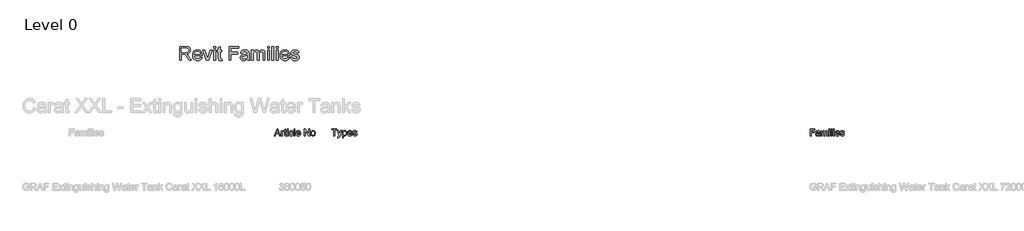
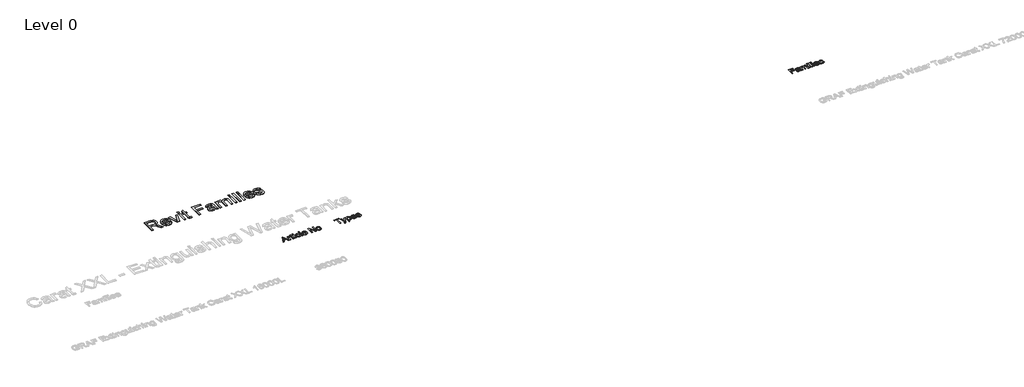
# One storey, part 36 of 37: 4 proxies.
"""IFC4 building model written with IfcOpenShell, lengths in millimetres."""

from ifc_helpers import new_model, si_unit, origin, origin_with_axes, place, context, project, spatial, polyline, outline, extrude, element, save

model = new_model("IFC4")

# Units and contexts
model_context = context("Model", 3, world=origin())
ifc_project = project(units=[si_unit("LENGTHUNIT", "METRE", prefix="MILLI")], contexts=[model_context])

# Site, building, storey
site = spatial("IfcSite", under=ifc_project)
building = spatial("IfcBuilding", under=site)
storey = spatial("IfcBuildingStorey", under=building, Name="Level 0", Elevation=0.0)

# Proxies
placement = place(None, origin())
element("IfcBuildingElementProxy", 1, Name="300mm Arial", ObjectType="300mm Arial", at=placement, inside=storey, context=model_context, shape_type="SweptSolid", body=[
    extrude(outline(polyline([(-3961.8157412, 653.8274553), (-3961.8157412, 917.5252695), (-4060.7024215, 917.5252695), (-4060.7024215, 955.1963858), (-3825.2579445, 955.1963858), (-3825.2579445, 917.5252695), (-3924.1446249, 917.5252695), (-3924.1446249, 653.8274553), (-3961.8157412, 653.8274553)])), origin_with_axes(), (0.0, 0.0, 1.0), 10.0),
    extrude(outline(polyline([(-3787.5868282, 569.0674436), (-3792.2957178, 605.3406084), (-3773.165854, 602.0296704), (-3755.2867891, 606.186737), (-3744.3239056, 617.7750198), (-3734.0232097, 645.5133222), (-3731.0801538, 654.6367957), (-3811.1312759, 875.1452636), (-3771.4000205, 875.1452636), (-3728.9464382, 752.2726772), (-3714.157582, 703.1236427), (-3699.3687258, 746.5337181), (-3655.7379212, 875.1452636), (-3616.3009713, 875.1452636), (-3693.3354611, 648.5299546), (-3713.3482416, 599.38092), (-3723.5937552, 583.690753), (-3735.2004321, 572.81984), (-3748.6833073, 566.4738756), (-3764.5574153, 564.3585541), (-3787.5868282, 569.0674436)])), origin_with_axes(), (0.0, 0.0, 1.0), 10.0),
    extrude(outline(polyline([(-3585.1045781, 569.0674436), (-3585.1045781, 875.1452636), (-3547.4334618, 875.1452636), (-3547.4334618, 838.2099113), (-3535.1462032, 856.4292671), (-3521.3874165, 869.4430927), (-3505.3477615, 877.2513881), (-3486.2178978, 879.8541532), (-3460.7420696, 876.2121214), (-3438.4668148, 865.2860262), (-3420.3302325, 847.738055), (-3407.2704216, 824.2303955), (-3399.3793528, 796.473699), (-3396.7489966, 766.1786167), (-3399.7196437, 733.9613509), (-3408.631585, 705.1469937), (-3423.199712, 681.1978758), (-3443.1389162, 663.5763282), (-3466.3614671, 652.7330064), (-3490.7796345, 649.1185658), (-3508.0976795, 651.5373899), (-3523.5579203, 658.7938623), (-3536.7924751, 669.7475487), (-3547.4334618, 683.2580149), (-3547.4334618, 569.0674436), (-3585.1045781, 569.0674436)]), holes=[polyline([(-3547.4334618, 762.7205259), (-3543.3591687, 728.9489587), (-3531.1362894, 705.3309347), (-3513.1008746, 691.4249952), (-3491.5889749, 686.7896821), (-3469.7275874, 691.5905421), (-3451.2323201, 705.9931223), (-3438.6231647, 730.475669), (-3434.4201129, 765.5164291), (-3438.5219971, 799.1040552), (-3450.8276499, 823.0531731), (-3468.8354735, 837.4005709), (-3490.0438705, 842.1830369), (-3511.335041, 837.0970683), (-3530.0326434, 821.8391625), (-3543.0832572, 796.8875662), (-3547.4334618, 762.7205259)])]), origin_with_axes(), (0.0, 0.0, 1.0), 10.0),
    extrude(outline(polyline([(-3199.4170944, 719.7519089), (-3162.481742, 715.0430193), (-3175.7898732, 687.2127464), (-3197.0258614, 666.4090196), (-3225.71146, 653.4411792), (-3261.3684223, 649.1185658), (-3284.7427246, 650.9832677), (-3305.5694441, 656.5773732), (-3323.8485807, 665.9008826), (-3339.5801345, 678.9537956), (-3352.2306766, 695.3728289), (-3361.2667781, 714.794699), (-3366.688439, 737.2194059), (-3368.4956593, 762.6469495), (-3366.6700449, 788.9367166), (-3361.1932017, 812.1086838), (-3352.0651297, 832.162851), (-3339.2858289, 849.0992184), (-3323.5956618, 862.5545023), (-3305.734991, 872.1654195), (-3285.7038163, 877.9319697), (-3263.5021379, 879.8541532), (-3242.0155301, 877.9365683), (-3222.584463, 872.1838136), (-3205.2089365, 862.5958891), (-3189.8889507, 849.1727948), (-3177.3832621, 832.2732156), (-3168.4506274, 812.2558366), (-3163.0910466, 789.1206576), (-3161.3045197, 762.8676787), (-3161.5252489, 752.7141356), (-3330.824543, 752.7141356), (-3324.3038347, 724.5159807), (-3309.1562935, 703.7858303), (-3287.294906, 691.0387191), (-3260.6326584, 686.7896821), (-3240.5830896, 688.7578508), (-3223.697306, 694.6623568), (-3209.9753076, 704.8710822), (-3199.4170944, 719.7519089)]), holes=[polyline([(-3330.824543, 790.3852519), (-3198.975636, 790.3852519), (-3204.0708016, 810.2876679), (-3214.0587978, 824.5247011), (-3236.0213529, 837.7684529), (-3263.6492907, 842.1830369), (-3289.0423454, 838.6605668), (-3310.0392103, 828.0931565), (-3324.6349285, 811.6212401), (-3330.824543, 790.3852519)])]), origin_with_axes(), (0.0, 0.0, 1.0), 10.0),
    extrude(outline(polyline([(-3137.760072, 719.7519089), (-3100.0889557, 724.4607984), (-3094.1476614, 708.347567), (-3082.6513491, 696.5017668), (-3065.5264422, 689.2177033), (-3042.6993644, 686.7896821), (-3020.1481981, 689.0153682), (-3004.2924841, 695.6924264), (-2994.9114932, 705.3677229), (-2991.7844963, 716.5881237), (-2994.9298873, 726.1898438), (-3004.3660605, 733.5106955), (-3043.1408228, 744.2528497), (-3099.8682265, 762.6837377), (-3114.2248213, 771.9451669), (-3124.6266847, 784.2048344), (-3130.945058, 798.6809909), (-3133.0511824, 814.5918872), (-3131.3589252, 829.1876054), (-3126.2821537, 842.6612835), (-3118.2807203, 854.4794926), (-3107.8144776, 864.1088038), (-3083.8653597, 875.2556282), (-3051.4549559, 879.8541532), (-3026.9356209, 878.0055461), (-3005.6168593, 872.4597251), (-2988.4735583, 863.7593159), (-2976.4806053, 852.4469445), (-2968.5343542, 837.6856795), (-2963.531159, 818.6385892), (-3001.2022754, 813.9296996), (-3005.9571501, 825.7846969), (-3015.3657322, 834.7150324), (-3029.5199919, 840.3160357), (-3048.5118999, 842.1830369), (-3070.1433612, 840.3988092), (-3084.5643355, 835.0461262), (-3092.6761335, 827.3206043), (-3095.3800661, 818.41786), (-3090.8919058, 807.4549765), (-3076.8388136, 799.1408434), (-3044.3916216, 791.1210159), (-2989.0989577, 773.3891038), (-2974.4940425, 764.9094238), (-2963.4207944, 753.3027468), (-2956.4402336, 738.5322847), (-2954.11338, 720.5612493), (-2956.8449038, 701.9832085), (-2965.0394752, 684.5088137), (-2978.3843946, 669.5084254), (-2996.5669622, 658.3524039), (-3018.5295173, 651.4270253), (-3043.2143992, 649.1185658), (-3081.1982152, 653.5699379), (-3108.9181235, 666.9240544), (-3127.4225879, 689.0337623), (-3137.760072, 719.7519089)])), origin_with_axes(), (0.0, 0.0, 1.0), 10.0),
])
element("IfcBuildingElementProxy", 2, Name="300mm Arial", ObjectType="300mm Arial", at=placement, inside=storey, context=model_context, shape_type="SweptSolid", body=[
    extrude(outline(polyline([(-6532.2115467, 653.8274553), (-6414.3028928, 949.2120707), (-6382.8605852, 949.2120707), (-6264.9519313, 653.8274553), (-6303.9663544, 653.8274553), (-6337.7884698, 746.1351476), (-6459.4471236, 746.1351476), (-6493.1971236, 653.8274553), (-6532.2115467, 653.8274553)]), holes=[polyline([(-6445.8894313, 783.0582246), (-6351.2740467, 783.0582246), (-6377.8846236, 855.6784169), (-6398.581739, 912.2889938), (-6416.9711621, 862.0245707), (-6445.8894313, 783.0582246)])]), origin_with_axes(), (0.0, 0.0, 1.0), 10.0),
    extrude(outline(polyline([(-6230.1202005, 653.8274553), (-6230.1202005, 870.7505323), (-6197.8125082, 870.7505323), (-6197.8125082, 838.6591861), (-6185.8774121, 857.2649553), (-6174.8798159, 868.2264938), (-6163.8461621, 873.5810611), (-6151.8028928, 875.3659169), (-6133.4134698, 872.5173592), (-6114.7355852, 863.9716861), (-6127.0673159, 830.8707246), (-6140.0480852, 836.5498111), (-6153.0288544, 838.44284), (-6164.0534938, 836.6219265), (-6173.9062582, 831.1591861), (-6181.8659938, 822.4692823), (-6187.2115467, 810.9668784), (-6191.7007294, 790.3418784), (-6193.1971236, 767.8418784), (-6193.1971236, 653.8274553), (-6230.1202005, 653.8274553)])), origin_with_axes(), (0.0, 0.0, 1.0), 10.0),
    extrude(outline(polyline([(-6013.1971236, 684.6207246), (-6008.581739, 652.7457246), (-6036.2019313, 649.2120707), (-6053.9242871, 650.7445226), (-6067.1394313, 655.3418784), (-6076.4783736, 662.427215), (-6082.5721236, 671.4236092), (-6085.925489, 686.8743303), (-6087.0432775, 713.3226476), (-6087.0432775, 833.8274553), (-6114.7355852, 833.8274553), (-6114.7355852, 870.7505323), (-6087.0432775, 870.7505323), (-6087.0432775, 923.4668784), (-6050.1202005, 945.1736092), (-6050.1202005, 870.7505323), (-6013.1971236, 870.7505323), (-6013.1971236, 833.8274553), (-6050.1202005, 833.8274553), (-6050.1202005, 714.4043784), (-6048.1730852, 695.3659169), (-6041.862989, 688.6231284), (-6029.2788544, 686.1351476), (-6013.1971236, 684.6207246)])), origin_with_axes(), (0.0, 0.0, 1.0), 10.0),
    extrude(outline(polyline([(-5976.2740467, 912.2889938), (-5976.2740467, 949.2120707), (-5939.3509698, 949.2120707), (-5939.3509698, 912.2889938), (-5976.2740467, 912.2889938)])), origin_with_axes(), (0.0, 0.0, 1.0), 10.0),
    extrude(outline(polyline([(-5976.2740467, 653.8274553), (-5976.2740467, 870.7505323), (-5939.3509698, 870.7505323), (-5939.3509698, 653.8274553), (-5976.2740467, 653.8274553)])), origin_with_axes(), (0.0, 0.0, 1.0), 10.0),
    extrude(outline(polyline([(-5745.5048159, 732.2889938), (-5708.581739, 727.6736092), (-5718.8762102, 694.8340659), (-5738.2211621, 670.0173592), (-5764.7956813, 654.4133928), (-5796.7788544, 649.2120707), (-5817.4872378, 651.0262234), (-5836.0546957, 656.4686813), (-5852.4812282, 665.5394445), (-5866.7668352, 678.238513), (-5878.3300864, 694.3270046), (-5886.5895515, 713.5660371), (-5891.5452306, 735.9556104), (-5893.1971236, 761.4957246), (-5890.3756092, 794.3532967), (-5881.9110659, 822.8298592), (-5867.6682775, 845.8256525), (-5847.5120275, 862.2409169), (-5823.3984457, 872.0846669), (-5797.2836621, 875.3659169), (-5766.0847438, 870.8587053), (-5741.1418352, 857.3370707), (-5723.2482053, 835.5221669), (-5713.1971236, 806.1351476), (-5750.1202005, 801.519763), (-5756.8179169, 817.6285371), (-5767.2476044, 829.176013), (-5780.83234, 836.1261332), (-5796.9952005, 838.44284), (-5820.8563784, 833.8815419), (-5839.7956813, 820.1976476), (-5852.1544553, 796.6519746), (-5856.2740467, 762.50534), (-5852.2445996, 727.8989698), (-5840.1562582, 704.2721669), (-5821.5595034, 690.6694025), (-5798.0048159, 686.1351476), (-5778.8852246, 688.9656765), (-5763.2091428, 697.457263), (-5751.8058977, 711.8262534), (-5745.5048159, 732.2889938)])), origin_with_axes(), (0.0, 0.0, 1.0), 10.0),
    extrude(outline(polyline([(-5676.2740467, 653.8274553), (-5676.2740467, 949.2120707), (-5639.3509698, 949.2120707), (-5639.3509698, 653.8274553), (-5676.2740467, 653.8274553)])), origin_with_axes(), (0.0, 0.0, 1.0), 10.0),
    extrude(outline(polyline([(-5432.0913544, 718.44284), (-5395.8894313, 713.8274553), (-5408.9333015, 686.5498111), (-5429.7476044, 666.1591861), (-5457.86359, 653.4488496), (-5492.8125082, 649.2120707), (-5515.7226645, 651.039745), (-5536.1358255, 656.5227678), (-5554.0519914, 665.6611392), (-5569.4711621, 678.4548592), (-5581.870501, 694.547858), (-5590.7271717, 713.5840659), (-5596.0411741, 735.563483), (-5597.8125082, 760.4861092), (-5596.0231453, 786.2538375), (-5590.6550563, 808.9656765), (-5581.7082414, 828.621626), (-5569.1827005, 845.2216861), (-5553.8040948, 858.4097871), (-5536.2980852, 867.8298592), (-5516.6646717, 873.4819025), (-5494.9038544, 875.3659169), (-5473.8439085, 873.4864097), (-5454.7986861, 867.847888), (-5437.7681873, 858.450352), (-5422.7524121, 845.2938015), (-5410.4950503, 828.7297991), (-5401.7397919, 809.1099073), (-5396.4866368, 786.434126), (-5394.7355852, 760.7024553), (-5394.9519313, 750.7505323), (-5560.8894313, 750.7505323), (-5554.4982053, 723.1123111), (-5539.6514505, 702.7938015), (-5518.2241669, 690.2998111), (-5492.0913544, 686.1351476), (-5472.4399121, 688.0642342), (-5455.8894313, 693.8514938), (-5442.4399121, 703.8575034), (-5432.0913544, 718.44284)]), holes=[polyline([(-5560.8894313, 787.6736092), (-5431.6586621, 787.6736092), (-5436.6526525, 807.1808207), (-5446.4423159, 821.1351476), (-5467.9687582, 834.1159169), (-5495.0480852, 838.44284), (-5519.9369073, 834.9903159), (-5540.5168352, 824.6327438), (-5554.8227246, 808.4879121), (-5560.8894313, 787.6736092)])]), origin_with_axes(), (0.0, 0.0, 1.0), 10.0),
    extrude(outline(polyline([(-5237.8125082, 653.8274553), (-5237.8125082, 949.2120707), (-5198.2932775, 949.2120707), (-5043.9663544, 715.1976476), (-5043.9663544, 949.2120707), (-5007.0432775, 949.2120707), (-5007.0432775, 653.8274553), (-5046.5625082, 653.8274553), (-5200.8894313, 887.9139938), (-5200.8894313, 653.8274553), (-5237.8125082, 653.8274553)])), origin_with_axes(), (0.0, 0.0, 1.0), 10.0),
    extrude(outline(polyline([(-4956.2740467, 762.2889938), (-4954.277352, 790.3824433), (-4948.2872678, 814.5906765), (-4938.3037943, 834.9136933), (-4924.3269313, 851.3514938), (-4910.2554169, 861.8578039), (-4894.7235659, 869.3623111), (-4877.7313784, 873.8650154), (-4859.2788544, 875.3659169), (-4838.9085118, 873.5382426), (-4820.4897919, 868.0552198), (-4804.0226945, 858.9168484), (-4789.5072198, 846.1231284), (-4777.6600142, 830.1067522), (-4769.1977246, 811.3004121), (-4764.1203508, 789.704108), (-4762.4278928, 765.31784), (-4765.4206813, 728.0161573), (-4774.3990467, 699.6207246), (-4789.1015707, 678.3557005), (-4809.2668352, 662.4452438), (-4833.2181573, 652.520364), (-4859.2788544, 649.2120707), (-4879.9466729, 651.0329842), (-4898.5366669, 656.4957246), (-4915.0488364, 665.6002919), (-4929.4831813, 678.3466861), (-4941.2041849, 694.5185611), (-4949.5763303, 713.8995707), (-4954.5996176, 736.489715), (-4956.2740467, 762.2889938)]), holes=[polyline([(-4919.3509698, 762.3611092), (-4915.0781332, 728.9446428), (-4902.2596236, 705.1375515), (-4882.9687582, 690.8857486), (-4859.2788544, 686.1351476), (-4835.6971236, 690.9127919), (-4816.4423159, 705.2457246), (-4803.6238063, 729.3683207), (-4799.3509698, 763.5149553), (-4803.6508496, 795.957864), (-4816.550489, 819.4404361), (-4835.83234, 833.692239), (-4859.2788544, 838.44284), (-4882.9687582, 833.7102678), (-4902.2596236, 819.5125515), (-4915.0781332, 795.7595467), (-4919.3509698, 762.3611092)])]), origin_with_axes(), (0.0, 0.0, 1.0), 10.0),
])
element("IfcBuildingElementProxy", 3, Name="300mm Arial", ObjectType="300mm Arial", at=placement, inside=storey, context=model_context, shape_type="SweptSolid", body=[
    extrude(outline(polyline([(16617.0847407, 653.8274553), (16617.0847407, 949.2120707), (16815.5462791, 949.2120707), (16815.5462791, 912.2889938), (16654.0078176, 912.2889938), (16654.0078176, 824.5966861), (16792.469356, 824.5966861), (16792.469356, 787.6736092), (16654.0078176, 787.6736092), (16654.0078176, 653.8274553), (16617.0847407, 653.8274553)])), origin_with_axes(), (0.0, 0.0, 1.0), 10.0),
    extrude(outline(polyline([(17000.1616637, 681.519763), (16982.5204378, 666.3935611), (16964.3563753, 656.4957246), (16945.2548128, 651.0329842), (16924.8010868, 649.2120707), (16893.9447166, 653.5930803), (16871.1832983, 666.7361092), (16857.1478416, 686.6940419), (16852.469356, 711.519763), (16854.236183, 726.8262534), (16859.5366637, 740.7264938), (16867.7127455, 752.6255323), (16878.1063753, 761.9284169), (16903.9597407, 774.0438015), (16935.906856, 779.5966861), (16973.6592599, 785.4380323), (16999.9453176, 792.2889938), (17000.1616637, 800.5101476), (16997.6195964, 816.988513), (16989.9933945, 827.769763), (16972.938106, 835.7745707), (16949.1760868, 838.44284), (16927.1808945, 836.6669986), (16911.8203176, 831.3394746), (16901.345558, 821.4867101), (16894.0078176, 806.1351476), (16857.0847407, 810.7505323), (16863.4939955, 830.94284), (16873.0582983, 846.8082246), (16886.6700772, 858.941638), (16905.2217599, 867.9380323), (16927.9110628, 873.5089457), (16953.9357022, 875.3659169), (16978.8966397, 873.7252919), (16998.6832983, 868.8034169), (17013.6021685, 861.4025755), (17023.9597407, 852.3250515), (17030.828731, 841.1020948), (17035.281856, 827.2649553), (17037.0847407, 794.957263), (17037.0847407, 749.019763), (17038.9597407, 684.8731284), (17046.3155099, 653.8274553), (17009.392433, 653.8274553), (17000.1616637, 681.519763)]), holes=[polyline([(17000.1616637, 755.3659169), (16940.594356, 744.0438015), (16908.8275291, 738.0582246), (16894.4405099, 728.3226476), (16889.392433, 714.1159169), (16892.141832, 703.1363496), (16900.3900291, 694.1399553), (16913.9567358, 688.1363496), (16932.6616637, 686.1351476), (16952.4933945, 688.3436813), (16970.017433, 694.9692823), (16984.2241637, 704.7319025), (16994.1039714, 716.3514938), (16998.484981, 728.3226476), (16999.9453176, 744.9091861), (17000.1616637, 755.3659169)])]), origin_with_axes(), (0.0, 0.0, 1.0), 10.0),
    extrude(outline(polyline([(17087.8539714, 653.8274553), (17087.8539714, 870.7505323), (17124.7770483, 870.7505323), (17124.7770483, 835.0534169), (17135.8828176, 851.4506525), (17150.1616637, 864.2962053), (17167.126808, 872.598489), (17186.2914714, 875.3659169), (17206.8263272, 872.5444025), (17223.2866637, 864.0798592), (17235.5823368, 850.5311813), (17243.6232022, 832.457263), (17257.0817358, 851.2297991), (17272.4332983, 864.6387534), (17289.6778897, 872.684126), (17308.8155099, 875.3659169), (17336.5709185, 870.9037775), (17357.0967599, 857.5173592), (17369.7800532, 834.8460851), (17374.0078176, 802.5293784), (17374.0078176, 653.8274553), (17337.0847407, 653.8274553), (17337.0847407, 786.6639938), (17333.6592599, 817.4933207), (17328.845558, 825.9939217), (17321.2554137, 832.6736092), (17311.4927935, 837.0005323), (17300.1616637, 838.44284), (17280.1586589, 834.7469265), (17263.8515676, 823.6591861), (17253.0072166, 804.4224073), (17249.392433, 776.2793784), (17249.392433, 653.8274553), (17212.469356, 653.8274553), (17212.469356, 790.7745707), (17210.3329378, 811.6519746), (17203.923683, 826.5438015), (17192.6466397, 835.4680803), (17175.906856, 838.44284), (17161.6820964, 836.4596669), (17148.5751253, 830.5101476), (17137.7578176, 820.738513), (17130.4020483, 807.2889938), (17126.1832983, 788.629138), (17124.7770483, 763.2264938), (17124.7770483, 653.8274553), (17087.8539714, 653.8274553)])), origin_with_axes(), (0.0, 0.0, 1.0), 10.0),
    extrude(outline(polyline([(17429.392433, 912.2889938), (17429.392433, 949.2120707), (17466.3155099, 949.2120707), (17466.3155099, 912.2889938), (17429.392433, 912.2889938)])), origin_with_axes(), (0.0, 0.0, 1.0), 10.0),
    extrude(outline(polyline([(17429.392433, 653.8274553), (17429.392433, 870.7505323), (17466.3155099, 870.7505323), (17466.3155099, 653.8274553), (17429.392433, 653.8274553)])), origin_with_axes(), (0.0, 0.0, 1.0), 10.0),
    extrude(outline(polyline([(17521.7001253, 653.8274553), (17521.7001253, 949.2120707), (17558.6232022, 949.2120707), (17558.6232022, 653.8274553), (17521.7001253, 653.8274553)])), origin_with_axes(), (0.0, 0.0, 1.0), 10.0),
    extrude(outline(polyline([(17614.0078176, 912.2889938), (17614.0078176, 949.2120707), (17650.9308945, 949.2120707), (17650.9308945, 912.2889938), (17614.0078176, 912.2889938)])), origin_with_axes(), (0.0, 0.0, 1.0), 10.0),
    extrude(outline(polyline([(17614.0078176, 653.8274553), (17614.0078176, 870.7505323), (17650.9308945, 870.7505323), (17650.9308945, 653.8274553), (17614.0078176, 653.8274553)])), origin_with_axes(), (0.0, 0.0, 1.0), 10.0),
    extrude(outline(polyline([(17858.1905099, 718.44284), (17894.392433, 713.8274553), (17881.3485628, 686.5498111), (17860.5342599, 666.1591861), (17832.4182743, 653.4488496), (17797.469356, 649.2120707), (17774.5591998, 651.039745), (17754.1460387, 656.5227678), (17736.2298729, 665.6611392), (17720.8107022, 678.4548592), (17708.4113633, 694.547858), (17699.5546926, 713.5840659), (17694.2406902, 735.563483), (17692.469356, 760.4861092), (17694.258719, 786.2538375), (17699.626808, 808.9656765), (17708.5736229, 828.621626), (17721.0991637, 845.2216861), (17736.4777695, 858.4097871), (17753.9837791, 867.8298592), (17773.6171926, 873.4819025), (17795.3780099, 875.3659169), (17816.4379558, 873.4864097), (17835.4831782, 867.847888), (17852.513677, 858.450352), (17867.5294522, 845.2938015), (17879.786814, 828.7297991), (17888.5420724, 809.1099073), (17893.7952274, 786.434126), (17895.5462791, 760.7024553), (17895.329933, 750.7505323), (17729.392433, 750.7505323), (17735.7836589, 723.1123111), (17750.6304137, 702.7938015), (17772.0576974, 690.2998111), (17798.1905099, 686.1351476), (17817.8419522, 688.0642342), (17834.392433, 693.8514938), (17847.8419522, 703.8575034), (17858.1905099, 718.44284)]), holes=[polyline([(17729.392433, 787.6736092), (17858.6232022, 787.6736092), (17853.6292118, 807.1808207), (17843.8395483, 821.1351476), (17822.313106, 834.1159169), (17795.2337791, 838.44284), (17770.344957, 834.9903159), (17749.7650291, 824.6327438), (17735.4591397, 808.4879121), (17729.392433, 787.6736092)])]), origin_with_axes(), (0.0, 0.0, 1.0), 10.0),
    extrude(outline(polyline([(17918.6232022, 718.44284), (17955.5462791, 723.0582246), (17961.3695964, 707.2649553), (17972.6376253, 695.6543784), (17989.422481, 688.5149553), (18011.7962791, 686.1351476), (18033.8996445, 688.316638), (18049.4405099, 694.8611092), (18058.6352214, 704.3442823), (18061.7001253, 715.3418784), (18058.6171926, 724.7529361), (18049.3683945, 731.9284169), (18011.3635868, 742.457263), (17955.7626253, 760.5221669), (17941.6911108, 769.5996909), (17931.4957983, 781.6159169), (17925.3028897, 795.8046188), (17923.2385868, 811.3995707), (17924.8972407, 825.7054601), (17929.8732022, 838.91159), (17937.7157503, 850.4951236), (17947.9741637, 859.9332246), (17971.4477214, 870.8587053), (18003.2145483, 875.3659169), (18027.2470003, 873.5540178), (18048.142433, 868.1183207), (18064.9453176, 859.5906765), (18076.7001253, 848.5029361), (18084.4885868, 834.0347871), (18089.392433, 815.3659169), (18052.469356, 810.7505323), (18047.8088993, 822.3701236), (18038.5871445, 831.1231284), (18024.7139474, 836.6129121), (18006.0991637, 838.44284), (17984.8972407, 836.6940419), (17970.7626253, 831.4476476), (17962.8119041, 823.8755323), (17960.1616637, 815.1495707), (17964.5607022, 804.4043784), (17978.3347407, 796.25534), (18010.1376253, 788.394763), (18064.3323368, 771.0149553), (18078.6472407, 762.7036573), (18089.500606, 751.3274553), (18096.3425532, 736.8502919), (18098.6232022, 719.2361092), (18095.9459185, 701.0269746), (18087.9140676, 683.8995707), (18074.8341397, 669.1970467), (18057.0126253, 658.2625515), (18035.486183, 651.4746909), (18011.2914714, 649.2120707), (17974.0619041, 653.5750515), (17946.892433, 666.6639938), (17928.7554137, 688.3346669), (17918.6232022, 718.44284)])), origin_with_axes(), (0.0, 0.0, 1.0), 10.0),
])
element("IfcBuildingElementProxy", 4, Name="600mm Arial", ObjectType="600mm Arial", at=placement, inside=storey, context=model_context, shape_type="SweptSolid", body=[
    extrude(outline(polyline([(-10626.1144326, 3919.3449091), (-10626.1144326, 4522.08277), (-10366.389744, 4522.08277), (-10296.5841354, 4518.017674), (-10245.798026, 4505.8223859), (-10226.1991127, 4496.1286953), (-10208.6787327, 4483.3080077), (-10193.2368859, 4467.3603233), (-10179.8735725, 4448.2856418), (-10169.0900315, 4427.1094345), (-10161.3875022, 4404.8571723), (-10156.7659846, 4381.5288553), (-10155.2254788, 4357.1244834), (-10157.7776601, 4326.1672135), (-10165.4342042, 4297.7483294), (-10178.1951109, 4271.867831), (-10196.0603802, 4248.5257184), (-10219.2599386, 4228.4669526), (-10248.0237121, 4212.4364947), (-10282.3517007, 4200.4343446), (-10322.2439046, 4192.4605024), (-10297.4118699, 4176.2369064), (-10279.4224404, 4160.2340396), (-10248.557141, 4123.6297811), (-10218.3540292, 4082.684515), (-10117.8486681, 3919.3449091), (-10205.4045829, 3919.3449091), (-10283.8370243, 4044.2776347), (-10340.4908516, 4126.9775072), (-10361.5520958, 4151.092172), (-10380.2956834, 4166.0465751), (-10416.1273898, 4180.3939729), (-10459.8317708, 4183.0427233), (-10550.7722, 4183.0427233), (-10550.7722, 3919.3449091), (-10626.1144326, 3919.3449091)]), holes=[polyline([(-10550.7722, 4258.3849559), (-10382.1350934, 4258.3849559), (-10333.7034287, 4261.0521004), (-10296.1242829, 4269.0535338), (-10267.8341575, 4282.922685), (-10247.269554, 4303.1929829), (-10234.743172, 4327.7123179), (-10230.5677114, 4354.3285802), (-10232.5588727, 4373.5963997), (-10238.5323566, 4391.0799916), (-10248.4881631, 4406.7793557), (-10262.4262922, 4420.6944922), (-10280.6686406, 4432.089637), (-10303.5371051, 4440.2290261), (-10331.0316858, 4445.1126596), (-10363.1523825, 4446.7405374), (-10550.7722, 4446.7405374), (-10550.7722, 4258.3849559)])]), origin_with_axes(), (0.0, 0.0, 1.0), 10.0),
    extrude(outline(polyline([(-9722.8905581, 4051.1938162), (-9649.0198534, 4041.7760371), (-9660.3460203, 4012.1891277), (-9675.6361158, 3986.1154913), (-9694.8901397, 3963.5551279), (-9718.1080921, 3944.5080376), (-9745.0508497, 3929.3788906), (-9775.4792893, 3918.572357), (-9809.3934107, 3912.0884368), (-9846.793214, 3909.9271301), (-9893.5418186, 3913.6565338), (-9935.1952575, 3924.844745), (-9971.7535307, 3943.4917636), (-10003.2166384, 3969.5975897), (-10028.5177226, 4002.4356563), (-10046.5899256, 4041.2793964), (-10057.4332474, 4086.1288102), (-10061.047688, 4136.9838975), (-10057.3964592, 4189.5634316), (-10046.4427728, 4235.907366), (-10028.1866288, 4276.0157005), (-10002.6280272, 4309.8884352), (-9971.247693, 4336.7990032), (-9935.5263513, 4356.0208374), (-9895.464002, 4367.553938), (-9851.0606452, 4371.3983048), (-9808.0874296, 4367.563135), (-9769.2252953, 4356.0576256), (-9734.4742424, 4336.8817766), (-9703.8342707, 4310.035588), (-9678.8228936, 4276.2364297), (-9660.9576242, 4236.2016716), (-9650.2384625, 4189.9313136), (-9646.6654087, 4137.4253559), (-9647.106867, 4117.1182697), (-9985.7054554, 4117.1182697), (-9981.3414552, 4087.0531137), (-9972.6640387, 4060.7219599), (-9959.6732057, 4038.1248083), (-9942.3689564, 4019.261659), (-9921.7077838, 4004.3900294), (-9898.6461812, 3993.7674368), (-9873.1841487, 3987.3938812), (-9845.321686, 3985.2693627), (-9805.2225486, 3989.2057), (-9771.4509814, 4001.0147121), (-9744.0069846, 4021.4321628), (-9722.8905581, 4051.1938162)]), holes=[polyline([(-9985.7054554, 4192.4605024), (-9722.0076413, 4192.4605024), (-9732.1979725, 4232.2653342), (-9740.9627611, 4247.9187131), (-9752.1739649, 4260.7394007), (-9772.7201743, 4276.1904445), (-9796.0990751, 4287.2269043), (-9822.3106672, 4293.8487802), (-9851.3549508, 4296.0560722), (-9877.8470529, 4294.2948372), (-9902.1410602, 4289.011132), (-9924.2369725, 4280.2049567), (-9944.13479, 4267.8763114), (-9960.832034, 4252.595413), (-9973.3262263, 4234.9324787), (-9981.6173667, 4214.8875085), (-9985.7054554, 4192.4605024)])]), origin_with_axes(), (0.0, 0.0, 1.0), 10.0),
    extrude(outline(polyline([(-9462.7244111, 3919.3449091), (-9618.4120714, 4361.9805257), (-9538.6552549, 4361.9805257), (-9444.3303113, 4096.8111836), (-9415.9298213, 4007.636588), (-9388.1179424, 4091.8079885), (-9293.2043877, 4361.9805257), (-9213.4475711, 4361.9805257), (-9367.2222451, 3919.3449091), (-9462.7244111, 3919.3449091)])), origin_with_axes(), (0.0, 0.0, 1.0), 10.0),
    extrude(outline(polyline([(-9147.5231176, 4446.7405374), (-9147.5231176, 4522.08277), (-9072.180885, 4522.08277), (-9072.180885, 4446.7405374), (-9147.5231176, 4446.7405374)])), origin_with_axes(), (0.0, 0.0, 1.0), 10.0),
    extrude(outline(polyline([(-9147.5231176, 3919.3449091), (-9147.5231176, 4361.9805257), (-9072.180885, 4361.9805257), (-9072.180885, 3919.3449091), (-9147.5231176, 3919.3449091)])), origin_with_axes(), (0.0, 0.0, 1.0), 10.0),
    extrude(outline(polyline([(-8799.0652918, 3982.1791539), (-8789.6475127, 3917.1376172), (-8846.0070343, 3909.9271301), (-8882.1698345, 3913.054127), (-8909.1355847, 3922.4351179), (-8928.1918721, 3936.8928803), (-8940.6262835, 3955.2501919), (-8947.4688886, 3986.7776789), (-8949.749757, 4040.7459676), (-8949.749757, 4286.6382931), (-9006.2564314, 4286.6382931), (-9006.2564314, 4361.9805257), (-8949.749757, 4361.9805257), (-8949.749757, 4469.5492211), (-8874.4075244, 4513.8422133), (-8874.4075244, 4361.9805257), (-8799.0652918, 4361.9805257), (-8799.0652918, 4286.6382931), (-8874.4075244, 4286.6382931), (-8874.4075244, 4042.9532595), (-8870.4343988, 4004.1049208), (-8857.558529, 3990.3461342), (-8846.687616, 3986.5385556), (-8831.8803657, 3985.2693627), (-8799.0652918, 3982.1791539)])), origin_with_axes(), (0.0, 0.0, 1.0), 10.0),
    extrude(outline(polyline([(-8478.8608032, 3919.3449091), (-8478.8608032, 4522.08277), (-8073.8963029, 4522.08277), (-8073.8963029, 4446.7405374), (-8403.5185706, 4446.7405374), (-8403.5185706, 4267.802735), (-8120.9851983, 4267.802735), (-8120.9851983, 4192.4605024), (-8403.5185706, 4192.4605024), (-8403.5185706, 3919.3449091), (-8478.8608032, 3919.3449091)])), origin_with_axes(), (0.0, 0.0, 1.0), 10.0),
    extrude(outline(polyline([(-7697.1851398, 3975.8515836), (-7733.182393, 3944.9862842), (-7770.2465041, 3924.7895627), (-7809.2236014, 3913.6427382), (-7850.9598138, 3909.9271301), (-7884.5060532, 3912.1620132), (-7913.9228173, 3918.8666625), (-7939.2101059, 3930.0410782), (-7960.3679192, 3945.68526), (-7977.0743603, 3964.8059267), (-7989.0075325, 3986.4097969), (-7996.1674358, 4010.4968705), (-7998.5540703, 4037.0671476), (-7994.9488267, 4068.300329), (-7984.133096, 4096.6640308), (-7967.4496476, 4120.9442425), (-7946.2412505, 4139.9269535), (-7921.3172454, 4154.2743513), (-7893.4869724, 4164.6486235), (-7828.2982829, 4175.979389), (-7751.2637931, 4187.8987656), (-7697.6265982, 4201.8782814), (-7697.1851398, 4218.6537004), (-7702.3722759, 4252.2781148), (-7708.8561961, 4264.7309203), (-7717.9336843, 4274.2774581), (-7733.6238514, 4283.8056018), (-7752.7353211, 4290.6114187), (-7801.222168, 4296.0560722), (-7846.1037715, 4292.4324346), (-7877.4473174, 4281.5615216), (-7898.8212614, 4261.4567706), (-7913.7940586, 4230.1316187), (-7989.1362912, 4239.5493977), (-7976.0580863, 4280.7521812), (-7956.5419464, 4313.1257968), (-7928.7668558, 4337.8842551), (-7890.9117985, 4356.2415666), (-7844.6138494, 4367.6091203), (-7791.5100834, 4371.3983048), (-7740.5768211, 4368.0505787), (-7700.2017722, 4358.0074002), (-7669.7595371, 4342.9058443), (-7648.6247164, 4324.3829858), (-7634.6084124, 4301.4823316), (-7625.5217272, 4273.2473885), (-7621.8429072, 4207.322935), (-7621.8429072, 4113.5866026), (-7618.0169344, 3982.6941887), (-7612.3515517, 3950.3389672), (-7603.007349, 3919.3449091), (-7678.3495817, 3919.3449091), (-7690.4161111, 3945.5381072), (-7697.1851398, 3975.8515836)]), holes=[polyline([(-7697.1851398, 4126.5360488), (-7747.8057023, 4113.9912728), (-7818.733351, 4103.4330595), (-7883.5541586, 4091.2193773), (-7900.421548, 4082.868456), (-7912.9111418, 4071.3537495), (-7920.6366637, 4057.5581747), (-7923.2118376, 4042.3646483), (-7917.6016372, 4019.9606348), (-7900.7710359, 4001.6033233), (-7873.0879158, 3989.3528528), (-7834.9201588, 3985.2693627), (-7794.4531393, 3989.7759171), (-7758.6950094, 4003.2955804), (-7729.7059082, 4023.2163905), (-7709.5459748, 4046.9263851), (-7700.6064424, 4071.3537495), (-7697.6265982, 4105.1988931), (-7697.1851398, 4126.5360488)])]), origin_with_axes(), (0.0, 0.0, 1.0), 10.0),
    extrude(outline(polyline([(-7518.2473374, 3919.3449091), (-7518.2473374, 4361.9805257), (-7442.9051047, 4361.9805257), (-7442.9051047, 4289.1398907), (-7420.2435738, 4322.5987582), (-7391.1073198, 4348.8103503), (-7356.4896241, 4365.7513162), (-7317.383768, 4371.3983048), (-7275.4820087, 4365.6409516), (-7257.648929, 4358.4442601), (-7241.8943826, 4348.3688919), (-7216.8048305, 4320.72256), (-7200.3972935, 4283.84239), (-7172.9349026, 4322.1481027), (-7141.6097507, 4349.5093261), (-7106.4218379, 4365.9260601), (-7067.3711641, 4371.3983048), (-7037.209439, 4369.122035), (-7010.7357309, 4362.2932254), (-6987.9500398, 4350.9118762), (-6968.8523658, 4334.9779873), (-6953.7554084, 4314.3076177), (-6942.9718674, 4288.7168264), (-6936.5017428, 4258.2056134), (-6934.3450346, 4222.7739788), (-6934.3450346, 3919.3449091), (-7009.6872672, 3919.3449091), (-7009.6872672, 4190.4003632), (-7011.4347067, 4227.979509), (-7016.6770251, 4253.3081844), (-7026.4994744, 4270.6538204), (-7041.9873064, 4284.2838484), (-7061.9081164, 4293.1130162), (-7085.0294998, 4296.0560722), (-7106.3804511, 4294.170677), (-7125.8460072, 4288.5144913), (-7143.426168, 4279.0875152), (-7159.1209337, 4265.8897486), (-7172.0289932, 4248.5349155), (-7181.2490357, 4226.6367397), (-7186.7810612, 4200.1952213), (-7188.6250697, 4169.2103603), (-7188.6250697, 3919.3449091), (-7263.9673023, 3919.3449091), (-7263.9673023, 4198.7880727), (-7268.3267039, 4241.3888077), (-7273.775956, 4258.1090444), (-7281.4049089, 4271.7758605), (-7291.5170652, 4282.3984531), (-7304.4159277, 4289.9860193), (-7320.1014962, 4294.538559), (-7338.5737709, 4296.0560722), (-7367.5996603, 4292.0093703), (-7394.3446814, 4279.8692644), (-7416.4176011, 4259.9300603), (-7431.4271865, 4232.4860634), (-7440.0356252, 4194.4102769), (-7442.9051047, 4142.5757038), (-7442.9051047, 3919.3449091), (-7518.2473374, 3919.3449091)])), origin_with_axes(), (0.0, 0.0, 1.0), 10.0),
    extrude(outline(polyline([(-6821.3316857, 4446.7405374), (-6821.3316857, 4522.08277), (-6745.9894531, 4522.08277), (-6745.9894531, 4446.7405374), (-6821.3316857, 4446.7405374)])), origin_with_axes(), (0.0, 0.0, 1.0), 10.0),
    extrude(outline(polyline([(-6821.3316857, 3919.3449091), (-6821.3316857, 4361.9805257), (-6745.9894531, 4361.9805257), (-6745.9894531, 3919.3449091), (-6821.3316857, 3919.3449091)])), origin_with_axes(), (0.0, 0.0, 1.0), 10.0),
    extrude(outline(polyline([(-6632.9761042, 3919.3449091), (-6632.9761042, 4522.08277), (-6557.6338716, 4522.08277), (-6557.6338716, 3919.3449091), (-6632.9761042, 3919.3449091)])), origin_with_axes(), (0.0, 0.0, 1.0), 10.0),
    extrude(outline(polyline([(-6444.6205226, 4446.7405374), (-6444.6205226, 4522.08277), (-6369.27829, 4522.08277), (-6369.27829, 4446.7405374), (-6444.6205226, 4446.7405374)])), origin_with_axes(), (0.0, 0.0, 1.0), 10.0),
    extrude(outline(polyline([(-6444.6205226, 3919.3449091), (-6444.6205226, 4361.9805257), (-6369.27829, 4361.9805257), (-6369.27829, 3919.3449091), (-6444.6205226, 3919.3449091)])), origin_with_axes(), (0.0, 0.0, 1.0), 10.0),
    extrude(outline(polyline([(-5946.3611484, 4051.1938162), (-5872.4904437, 4041.7760371), (-5883.8166107, 4012.1891277), (-5899.1067061, 3986.1154913), (-5918.36073, 3963.5551279), (-5941.5786824, 3944.5080376), (-5968.5214401, 3929.3788906), (-5998.9498796, 3918.572357), (-6032.864001, 3912.0884368), (-6070.2638043, 3909.9271301), (-6117.0124089, 3913.6565338), (-6158.6658478, 3924.844745), (-6195.2241211, 3943.4917636), (-6226.6872287, 3969.5975897), (-6251.9883129, 4002.4356563), (-6270.0605159, 4041.2793964), (-6280.9038377, 4086.1288102), (-6284.5182783, 4136.9838975), (-6280.8670495, 4189.5634316), (-6269.9133631, 4235.907366), (-6251.6572191, 4276.0157005), (-6226.0986175, 4309.8884352), (-6194.7182833, 4336.7990032), (-6158.9969416, 4356.0208374), (-6118.9345923, 4367.553938), (-6074.5312355, 4371.3983048), (-6031.5580199, 4367.563135), (-5992.6958857, 4356.0576256), (-5957.9448327, 4336.8817766), (-5927.304861, 4310.035588), (-5902.2934839, 4276.2364297), (-5884.4282145, 4236.2016716), (-5873.7090528, 4189.9313136), (-5870.135999, 4137.4253559), (-5870.5774574, 4117.1182697), (-6209.1760457, 4117.1182697), (-6204.8120456, 4087.0531137), (-6196.134629, 4060.7219599), (-6183.143796, 4038.1248083), (-6165.8395467, 4019.261659), (-6145.1783741, 4004.3900294), (-6122.1167716, 3993.7674368), (-6096.654739, 3987.3938812), (-6068.7922764, 3985.2693627), (-6028.6931389, 3989.2057), (-5994.9215717, 4001.0147121), (-5967.4775749, 4021.4321628), (-5946.3611484, 4051.1938162)]), holes=[polyline([(-6209.1760457, 4192.4605024), (-5945.4782316, 4192.4605024), (-5955.6685628, 4232.2653342), (-5964.4333514, 4247.9187131), (-5975.6445552, 4260.7394007), (-5996.1907646, 4276.1904445), (-6019.5696654, 4287.2269043), (-6045.7812576, 4293.8487802), (-6074.8255411, 4296.0560722), (-6101.3176433, 4294.2948372), (-6125.6116505, 4289.011132), (-6147.7075629, 4280.2049567), (-6167.6053803, 4267.8763114), (-6184.3026243, 4252.595413), (-6196.7968166, 4234.9324787), (-6205.087957, 4214.8875085), (-6209.1760457, 4192.4605024)])]), origin_with_axes(), (0.0, 0.0, 1.0), 10.0),
    extrude(outline(polyline([(-5823.0471036, 4051.1938162), (-5747.704871, 4060.6115953), (-5743.1523313, 4043.4315061), (-5735.8222825, 4028.3851325), (-5725.7147247, 4015.4724745), (-5712.8296578, 4004.693532), (-5697.1302937, 3996.1954579), (-5678.5798441, 3990.125405), (-5632.9256885, 3985.2693627), (-5587.8233559, 3989.7207348), (-5570.2937788, 3995.28495), (-5556.1119279, 4003.0748512), (-5537.3499461, 4022.4254442), (-5532.6594507, 4033.2595689), (-5531.0959522, 4044.8662459), (-5532.6686477, 4055.0381831), (-5537.3867343, 4064.069686), (-5556.2590807, 4078.7113895), (-5584.4756297, 4088.2763213), (-5633.8086053, 4100.195698), (-5702.5657502, 4120.0797198), (-5747.2634126, 4137.0574739), (-5775.9766023, 4155.5803323), (-5796.7803291, 4180.0996673), (-5809.4170757, 4209.0519803), (-5813.6293245, 4240.8737729), (-5810.2448102, 4270.0652092), (-5800.0912671, 4297.0125654), (-5784.0884003, 4320.6489836), (-5763.1559148, 4339.907606), (-5742.3521879, 4352.0293178), (-5715.257679, 4362.2012549), (-5683.9325271, 4369.0990423), (-5650.4368714, 4371.3983048), (-5601.3982015, 4367.7010908), (-5558.7606782, 4356.6094486), (-5524.4740763, 4339.2086302), (-5500.4881702, 4316.5838875), (-5484.595668, 4287.0613574), (-5474.5892778, 4248.9671768), (-5549.9315104, 4239.5493977), (-5559.4412599, 4263.2593923), (-5578.258424, 4281.1200632), (-5606.5669435, 4292.32207), (-5644.5507595, 4296.0560722), (-5687.8136822, 4292.4876169), (-5716.6556306, 4281.7822508), (-5732.8792266, 4266.331207), (-5738.2870919, 4248.5257184), (-5736.0430117, 4236.9374356), (-5729.3107712, 4226.5999515), (-5717.7960648, 4217.3661134), (-5701.2045868, 4209.9716853), (-5636.3102028, 4193.9320303), (-5525.7248751, 4158.468206), (-5496.5150447, 4141.508846), (-5474.3685486, 4118.2954921), (-5460.4074268, 4088.7545679), (-5455.7537196, 4052.812497), (-5461.2167672, 4015.6564155), (-5477.6059101, 3980.7076259), (-5504.2957489, 3950.7068492), (-5540.6608841, 3928.3948062), (-5584.5859943, 3914.5440491), (-5633.9557581, 3909.9271301), (-5674.505551, 3912.1528161), (-5709.9233901, 3918.8298743), (-5740.2092753, 3929.9583047), (-5765.3632067, 3945.5381072), (-5785.9094162, 3965.4957054), (-5802.3721355, 3989.757523), (-5814.7513646, 4018.3235599), (-5823.0471036, 4051.1938162)])), origin_with_axes(), (0.0, 0.0, 1.0), 10.0),
])

save(model, "model.ifc")
